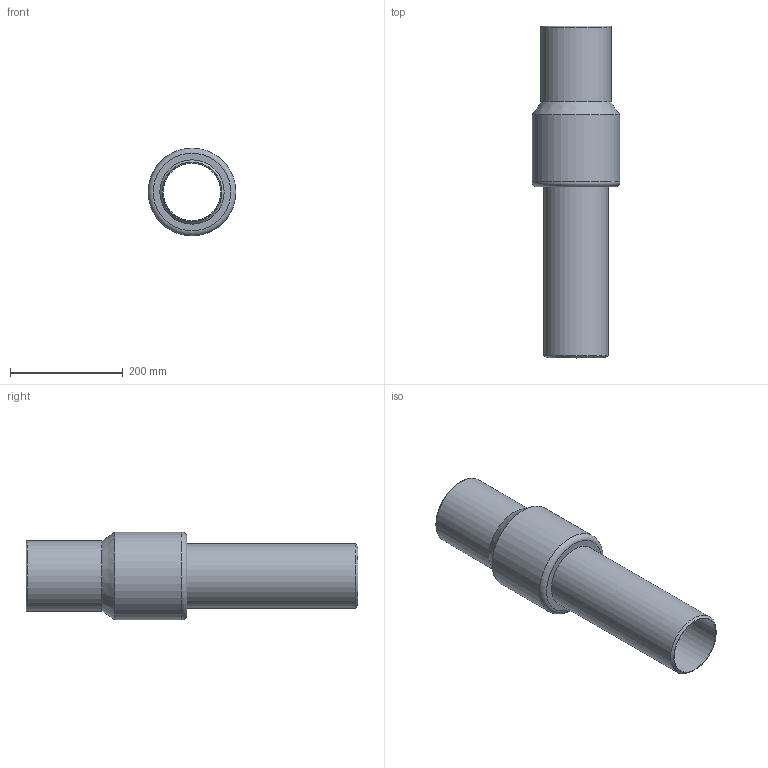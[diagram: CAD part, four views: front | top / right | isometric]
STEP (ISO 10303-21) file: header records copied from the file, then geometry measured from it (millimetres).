
FILE_DESCRIPTION(/* description */ ('Unknown'),/* implementation_level */ '2;1');
FILE_NAME(/* name */ 'RTSNP125C',/* time_stamp */ '2022-04-26T17:33:29+02:00',/* author */ ('Unknown'),/* organization */ ('Unknown'),/* preprocessor_version */ 'ST-DEVELOPER v18.1',/* originating_system */ 'Solid Edge',/* authorisation */ 'Unknown');
FILE_SCHEMA (('AUTOMOTIVE_DESIGN {1 0 10303 214 3 1 1}'));
Length unit declared in the file: millimetre
Products named in the file (3): RTSNP125C; Parte PE_; Partea ACCIAIO
Assembly tree (2 placements, depth 2):
  RTSNP125C
    Parte PE_
    Partea ACCIAIO
Bounding box: 156 x 590 x 156 mm (x, y, z)
Volume: 2551612.9 mm3; surface area: 535639.3 mm2
Topology: 2 solids, 2 shells, 15 faces, 27 edges, 17 vertices
Faces by surface type: cylinder 6, plane 5, cone 2, torus 2
Full cylindrical faces by diameter (mm): 102.2 x1, 104.74 x1, 114.3 x2, 125 x1, 156 x1
Entity records: 388 total; most frequent: DIRECTION 66, CARTESIAN_POINT 48, AXIS2_PLACEMENT_3D 33, ORIENTED_EDGE 30, EDGE_LOOP 30, FACE_BOUND 30, EDGE_CURVE 15, VERTEX_POINT 15
